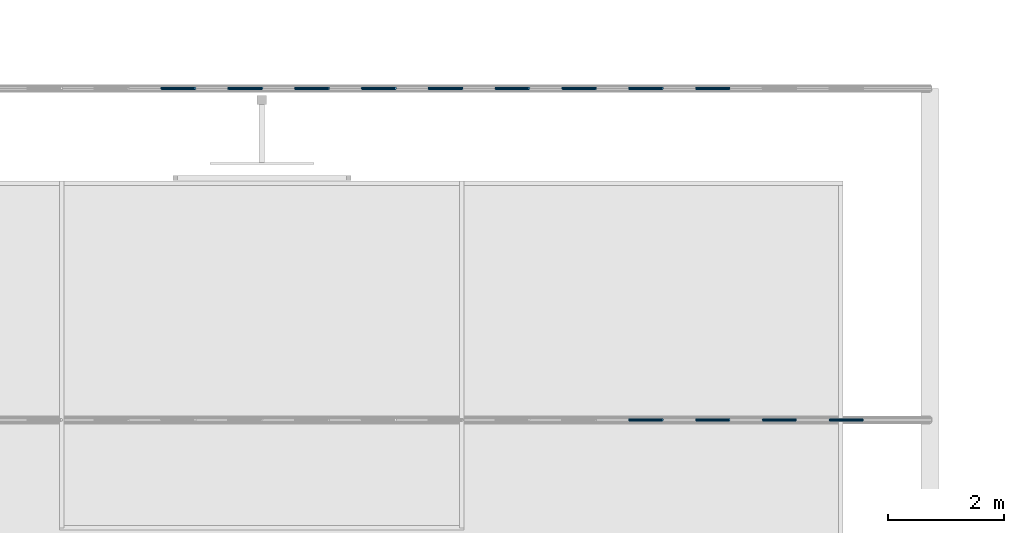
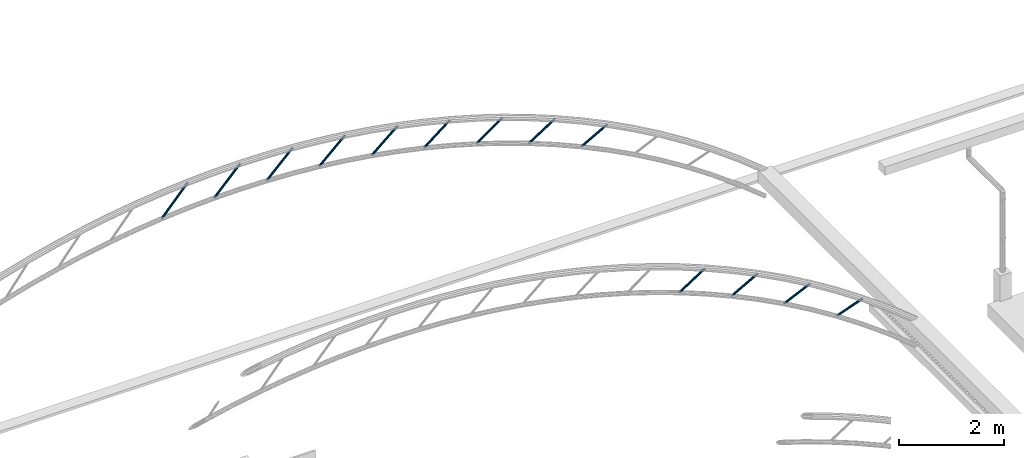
# One storey, part 23 of 90: 13 beams.
"""IFC2X3 building model written with IfcOpenShell, lengths in metres."""

from ifc_helpers import new_model, si_unit, origin, origin_with_axes, place, context, subcontext, project, spatial, faceted_brep, element, save


model = new_model("IFC2X3")

# Units and contexts
model_context = context("Model", 3, precision=1e-05, world=origin_with_axes())
body_context = subcontext(model_context, "Body", "Model", "MODEL_VIEW")
ifc_project = project(units=[si_unit("LENGTHUNIT", "METRE"), si_unit("AREAUNIT", "SQUARE_METRE"), si_unit("VOLUMEUNIT", "CUBIC_METRE"), si_unit("PLANEANGLEUNIT", "RADIAN")], contexts=[model_context])

# Site, building, storey
site_placement = place(None, origin_with_axes())
site = spatial("IfcSite", under=ifc_project, at=site_placement, Name="Predio Los Mangos - Morales, San Martín", CompositionType="ELEMENT")
building_placement = place(site_placement, origin())
building = spatial("IfcBuilding", under=site, at=building_placement, Name="Hogar de Refugio Temporal", CompositionType="ELEMENT")
storey_placement = place(building_placement, origin())
storey = spatial("IfcBuildingStorey", under=building, at=storey_placement, Name="NIVEL 1 (NPT +0.00)", CompositionType="ELEMENT", Elevation=0.0)

# Beams
beam_1_placement = place(storey_placement, origin())
element("IfcBeam", 1, at=beam_1_placement, inside=storey, Name="diag", ObjectType="Viga", context=body_context, shape_type="Brep", body=[
    faceted_brep([(21.3958, 121.2883, 8.401), (21.9733, 121.2883, 8.7715), (21.98, 121.2917, 8.7609), (21.4025, 121.2917, 8.3905), (21.3908, 121.2792, 8.4087), (21.9683, 121.2792, 8.7792), (21.389, 121.2667, 8.4115), (21.9665, 121.2667, 8.782), (21.3908, 121.2542, 8.4087), (21.9683, 121.2542, 8.7792), (21.3958, 121.245, 8.401), (21.9733, 121.245, 8.7715), (21.4025, 121.2417, 8.3905), (21.98, 121.2417, 8.7609), (21.4092, 121.245, 8.38), (21.9867, 121.245, 8.7504), (21.4142, 121.2542, 8.3723), (21.9917, 121.2542, 8.7427), (21.416, 121.2667, 8.3695), (21.9935, 121.2667, 8.7399), (21.4142, 121.2792, 8.3723), (21.9917, 121.2792, 8.7427), (21.4092, 121.2883, 8.38), (21.9867, 121.2883, 8.7504), (21.4013, 121.2704, 8.3923), (21.4025, 121.271, 8.3905), (21.98, 121.271, 8.7609), (21.9788, 121.2704, 8.7627), (21.4005, 121.2688, 8.3936), (21.978, 121.2688, 8.7641), (21.4002, 121.2667, 8.3941), (21.9777, 121.2667, 8.7645), (21.4005, 121.2645, 8.3936), (21.978, 121.2645, 8.7641), (21.4013, 121.2629, 8.3923), (21.9788, 121.2629, 8.7627), (21.4025, 121.2624, 8.3905), (21.98, 121.2624, 8.7609), (21.4037, 121.2629, 8.3887), (21.9812, 121.2629, 8.7591), (21.4045, 121.2645, 8.3874), (21.982, 121.2645, 8.7578), (21.4048, 121.2667, 8.3869), (21.9823, 121.2667, 8.7573), (21.4045, 121.2688, 8.3874), (21.982, 121.2688, 8.7578), (21.4037, 121.2704, 8.3887), (21.9812, 121.2704, 8.7591)], [[[0, 1, 2, 3]], [[4, 5, 1, 0]], [[6, 7, 5, 4]], [[8, 9, 7, 6]], [[10, 11, 9, 8]], [[12, 13, 11, 10]], [[14, 15, 13, 12]], [[16, 17, 15, 14]], [[18, 19, 17, 16]], [[20, 21, 19, 18]], [[22, 23, 21, 20]], [[3, 2, 23, 22]], [[24, 25, 26, 27]], [[28, 24, 27, 29]], [[30, 28, 29, 31]], [[32, 30, 31, 33]], [[34, 32, 33, 35]], [[36, 34, 35, 37]], [[38, 36, 37, 39]], [[40, 38, 39, 41]], [[42, 40, 41, 43]], [[44, 42, 43, 45]], [[46, 44, 45, 47]], [[25, 46, 47, 26]], [[6, 4, 28, 30]], [[16, 14, 38, 40]], [[0, 3, 25, 24]], [[9, 11, 35, 33]], [[19, 21, 45, 43]], [[12, 10, 34, 36]], [[22, 20, 44, 46]], [[5, 7, 31, 29]], [[15, 17, 41, 39]], [[2, 1, 27, 26]], [[8, 6, 30, 32]], [[18, 16, 40, 42]], [[11, 13, 37, 35]], [[21, 23, 47, 45]], [[4, 0, 24, 28]], [[14, 12, 36, 38]], [[3, 22, 46, 25]], [[7, 9, 33, 31]], [[17, 19, 43, 41]], [[23, 2, 26, 47]], [[10, 8, 32, 34]], [[20, 18, 42, 44]], [[1, 5, 29, 27]], [[13, 15, 39, 37]]]),
])
beam_2_placement = place(storey_placement, origin())
element("IfcBeam", 2, at=beam_2_placement, inside=storey, Name="diag", ObjectType="Viga", context=body_context, shape_type="Brep", body=[
    faceted_brep([(22.5514, 121.2883, 7.9187), (23.1289, 121.2883, 8.2407), (23.135, 121.2917, 8.2298), (22.5575, 121.2917, 7.9077), (22.547, 121.2792, 7.9267), (23.1245, 121.2792, 8.2487), (22.5453, 121.2667, 7.9296), (23.1228, 121.2667, 8.2517), (22.547, 121.2542, 7.9267), (23.1245, 121.2542, 8.2487), (22.5514, 121.245, 7.9187), (23.1289, 121.245, 8.2407), (22.5575, 121.2417, 7.9077), (23.135, 121.2417, 8.2298), (22.5636, 121.245, 7.8968), (23.1411, 121.245, 8.2189), (22.568, 121.2542, 7.8888), (23.1455, 121.2542, 8.2109), (22.5697, 121.2667, 7.8859), (23.1472, 121.2667, 8.208), (22.568, 121.2792, 7.8888), (23.1455, 121.2792, 8.2109), (22.5636, 121.2883, 7.8968), (23.1411, 121.2883, 8.2189), (22.5565, 121.2704, 7.9096), (22.5575, 121.271, 7.9077), (23.135, 121.271, 8.2298), (23.134, 121.2704, 8.2317), (22.5557, 121.2688, 7.911), (23.1332, 121.2688, 8.2331), (22.5554, 121.2667, 7.9115), (23.1329, 121.2667, 8.2336), (22.5557, 121.2645, 7.911), (23.1332, 121.2645, 8.2331), (22.5565, 121.2629, 7.9096), (23.134, 121.2629, 8.2317), (22.5575, 121.2624, 7.9077), (23.135, 121.2624, 8.2298), (22.5585, 121.2629, 7.9059), (23.136, 121.2629, 8.228), (22.5593, 121.2645, 7.9045), (23.1368, 121.2645, 8.2266), (22.5596, 121.2667, 7.904), (23.1371, 121.2667, 8.2261), (22.5593, 121.2688, 7.9045), (23.1368, 121.2688, 8.2266), (22.5585, 121.2704, 7.9059), (23.136, 121.2704, 8.228)], [[[0, 1, 2, 3]], [[4, 5, 1, 0]], [[6, 7, 5, 4]], [[8, 9, 7, 6]], [[10, 11, 9, 8]], [[12, 13, 11, 10]], [[14, 15, 13, 12]], [[16, 17, 15, 14]], [[18, 19, 17, 16]], [[20, 21, 19, 18]], [[22, 23, 21, 20]], [[3, 2, 23, 22]], [[24, 25, 26, 27]], [[28, 24, 27, 29]], [[30, 28, 29, 31]], [[32, 30, 31, 33]], [[34, 32, 33, 35]], [[36, 34, 35, 37]], [[38, 36, 37, 39]], [[40, 38, 39, 41]], [[42, 40, 41, 43]], [[44, 42, 43, 45]], [[46, 44, 45, 47]], [[25, 46, 47, 26]], [[6, 4, 28, 30]], [[16, 14, 38, 40]], [[0, 3, 25, 24]], [[9, 11, 35, 33]], [[19, 21, 45, 43]], [[12, 10, 34, 36]], [[22, 20, 44, 46]], [[5, 7, 31, 29]], [[15, 17, 41, 39]], [[2, 1, 27, 26]], [[8, 6, 30, 32]], [[18, 16, 40, 42]], [[11, 13, 37, 35]], [[21, 23, 47, 45]], [[4, 0, 24, 28]], [[14, 12, 36, 38]], [[3, 22, 46, 25]], [[7, 9, 33, 31]], [[17, 19, 43, 41]], [[23, 2, 26, 47]], [[10, 8, 32, 34]], [[20, 18, 42, 44]], [[1, 5, 29, 27]], [[13, 15, 39, 37]]]),
])
beam_3_placement = place(storey_placement, origin())
element("IfcBeam", 3, at=beam_3_placement, inside=storey, Name="diag", ObjectType="Viga", context=body_context, shape_type="Brep", body=[
    faceted_brep([(23.7072, 121.2883, 7.3372), (24.2847, 121.2883, 7.6056), (24.29, 121.2917, 7.5943), (23.7125, 121.2917, 7.3259), (23.7034, 121.2792, 7.3455), (24.2809, 121.2792, 7.6139), (23.702, 121.2667, 7.3485), (24.2795, 121.2667, 7.617), (23.7034, 121.2542, 7.3455), (24.2809, 121.2542, 7.6139), (23.7072, 121.245, 7.3372), (24.2847, 121.245, 7.6056), (23.7125, 121.2417, 7.3259), (24.29, 121.2417, 7.5943), (23.7178, 121.245, 7.3145), (24.2953, 121.245, 7.583), (23.7216, 121.2542, 7.3062), (24.2991, 121.2542, 7.5747), (23.723, 121.2667, 7.3032), (24.3005, 121.2667, 7.5716), (23.7216, 121.2792, 7.3062), (24.2991, 121.2792, 7.5747), (23.7178, 121.2883, 7.3145), (24.2953, 121.2883, 7.583), (23.7116, 121.2704, 7.3278), (23.7125, 121.271, 7.3259), (24.29, 121.271, 7.5943), (24.2891, 121.2704, 7.5963), (23.7109, 121.2688, 7.3292), (24.2884, 121.2688, 7.5977), (23.7107, 121.2667, 7.3298), (24.2882, 121.2667, 7.5982), (23.7109, 121.2645, 7.3292), (24.2884, 121.2645, 7.5977), (23.7116, 121.2629, 7.3278), (24.2891, 121.2629, 7.5963), (23.7125, 121.2624, 7.3259), (24.29, 121.2624, 7.5943), (23.7134, 121.2629, 7.3239), (24.2909, 121.2629, 7.5924), (23.7141, 121.2645, 7.3225), (24.2916, 121.2645, 7.5909), (23.7143, 121.2667, 7.322), (24.2918, 121.2667, 7.5904), (23.7141, 121.2688, 7.3225), (24.2916, 121.2688, 7.5909), (23.7134, 121.2704, 7.3239), (24.2909, 121.2704, 7.5924)], [[[0, 1, 2, 3]], [[4, 5, 1, 0]], [[6, 7, 5, 4]], [[8, 9, 7, 6]], [[10, 11, 9, 8]], [[12, 13, 11, 10]], [[14, 15, 13, 12]], [[16, 17, 15, 14]], [[18, 19, 17, 16]], [[20, 21, 19, 18]], [[22, 23, 21, 20]], [[3, 2, 23, 22]], [[24, 25, 26, 27]], [[28, 24, 27, 29]], [[30, 28, 29, 31]], [[32, 30, 31, 33]], [[34, 32, 33, 35]], [[36, 34, 35, 37]], [[38, 36, 37, 39]], [[40, 38, 39, 41]], [[42, 40, 41, 43]], [[44, 42, 43, 45]], [[46, 44, 45, 47]], [[25, 46, 47, 26]], [[6, 4, 28, 30]], [[16, 14, 38, 40]], [[0, 3, 25, 24]], [[9, 11, 35, 33]], [[19, 21, 45, 43]], [[12, 10, 34, 36]], [[22, 20, 44, 46]], [[5, 7, 31, 29]], [[15, 17, 41, 39]], [[2, 1, 27, 26]], [[8, 6, 30, 32]], [[18, 16, 40, 42]], [[11, 13, 37, 35]], [[21, 23, 47, 45]], [[4, 0, 24, 28]], [[14, 12, 36, 38]], [[3, 22, 46, 25]], [[7, 9, 33, 31]], [[17, 19, 43, 41]], [[23, 2, 26, 47]], [[10, 8, 32, 34]], [[20, 18, 42, 44]], [[1, 5, 29, 27]], [[13, 15, 39, 37]]]),
])
beam_4_placement = place(storey_placement, origin())
element("IfcBeam", 4, at=beam_4_placement, inside=storey, Name="diag", ObjectType="Viga", context=body_context, shape_type="Brep", body=[
    faceted_brep([(24.8633, 121.2883, 6.6451), (25.4408, 121.2883, 6.8526), (25.445, 121.2917, 6.8408), (24.8675, 121.2917, 6.6333), (24.8602, 121.2792, 6.6537), (25.4377, 121.2792, 6.8612), (24.859, 121.2667, 6.6569), (25.4365, 121.2667, 6.8643), (24.8602, 121.2542, 6.6537), (25.4377, 121.2542, 6.8612), (24.8633, 121.245, 6.6451), (25.4408, 121.245, 6.8526), (24.8675, 121.2417, 6.6333), (25.445, 121.2417, 6.8408), (24.8717, 121.245, 6.6216), (25.4492, 121.245, 6.829), (24.8748, 121.2542, 6.613), (25.4523, 121.2542, 6.8204), (24.876, 121.2667, 6.6098), (25.4535, 121.2667, 6.8173), (24.8748, 121.2792, 6.613), (25.4523, 121.2792, 6.8204), (24.8717, 121.2883, 6.6216), (25.4492, 121.2883, 6.829), (24.8668, 121.2704, 6.6354), (24.8675, 121.271, 6.6333), (25.445, 121.271, 6.8408), (25.4443, 121.2704, 6.8428), (24.8662, 121.2688, 6.6368), (25.4437, 121.2688, 6.8443), (24.866, 121.2667, 6.6374), (25.4435, 121.2667, 6.8449), (24.8662, 121.2645, 6.6368), (25.4437, 121.2645, 6.8443), (24.8668, 121.2629, 6.6354), (25.4443, 121.2629, 6.8428), (24.8675, 121.2624, 6.6333), (25.445, 121.2624, 6.8408), (24.8682, 121.2629, 6.6313), (25.4457, 121.2629, 6.8388), (24.8688, 121.2645, 6.6298), (25.4463, 121.2645, 6.8373), (24.869, 121.2667, 6.6293), (25.4465, 121.2667, 6.8368), (24.8688, 121.2688, 6.6298), (25.4463, 121.2688, 6.8373), (24.8682, 121.2704, 6.6313), (25.4457, 121.2704, 6.8388)], [[[0, 1, 2, 3]], [[4, 5, 1, 0]], [[6, 7, 5, 4]], [[8, 9, 7, 6]], [[10, 11, 9, 8]], [[12, 13, 11, 10]], [[14, 15, 13, 12]], [[16, 17, 15, 14]], [[18, 19, 17, 16]], [[20, 21, 19, 18]], [[22, 23, 21, 20]], [[3, 2, 23, 22]], [[24, 25, 26, 27]], [[28, 24, 27, 29]], [[30, 28, 29, 31]], [[32, 30, 31, 33]], [[34, 32, 33, 35]], [[36, 34, 35, 37]], [[38, 36, 37, 39]], [[40, 38, 39, 41]], [[42, 40, 41, 43]], [[44, 42, 43, 45]], [[46, 44, 45, 47]], [[25, 46, 47, 26]], [[6, 4, 28, 30]], [[16, 14, 38, 40]], [[0, 3, 25, 24]], [[9, 11, 35, 33]], [[19, 21, 45, 43]], [[12, 10, 34, 36]], [[22, 20, 44, 46]], [[5, 7, 31, 29]], [[15, 17, 41, 39]], [[2, 1, 27, 26]], [[8, 6, 30, 32]], [[18, 16, 40, 42]], [[11, 13, 37, 35]], [[21, 23, 47, 45]], [[4, 0, 24, 28]], [[14, 12, 36, 38]], [[3, 22, 46, 25]], [[7, 9, 33, 31]], [[17, 19, 43, 41]], [[23, 2, 26, 47]], [[10, 8, 32, 34]], [[20, 18, 42, 44]], [[1, 5, 29, 27]], [[13, 15, 39, 37]]]),
])
beam_5_placement = place(storey_placement, origin())
element("IfcBeam", 5, at=beam_5_placement, inside=storey, Name="diag", ObjectType="Viga", context=body_context, shape_type="Brep", body=[
    faceted_brep([(13.3082, 127.0217, 9.4747), (13.8857, 127.0217, 10.1212), (13.895, 127.025, 10.1129), (13.3175, 127.025, 9.4663), (13.3014, 127.0125, 9.4808), (13.8789, 127.0125, 10.1273), (13.2989, 127.0, 9.483), (13.8764, 127.0, 10.1295), (13.3014, 126.9875, 9.4808), (13.8789, 126.9875, 10.1273), (13.3082, 126.9783, 9.4747), (13.8857, 126.9783, 10.1212), (13.3175, 126.975, 9.4663), (13.895, 126.975, 10.1129), (13.3268, 126.9783, 9.458), (13.9043, 126.9783, 10.1045), (13.3336, 126.9875, 9.4519), (13.9111, 126.9875, 10.0984), (13.3361, 127.0, 9.4497), (13.9136, 127.0, 10.0962), (13.3336, 127.0125, 9.4519), (13.9111, 127.0125, 10.0984), (13.3268, 127.0217, 9.458), (13.9043, 127.0217, 10.1045), (13.3159, 127.0037, 9.4678), (13.3175, 127.0043, 9.4663), (13.895, 127.0043, 10.1129), (13.8934, 127.0037, 10.1143), (13.3147, 127.0021, 9.4688), (13.8922, 127.0021, 10.1153), (13.3143, 127.0, 9.4692), (13.8918, 127.0, 10.1157), (13.3147, 126.9979, 9.4688), (13.8922, 126.9979, 10.1153), (13.3159, 126.9963, 9.4678), (13.8934, 126.9963, 10.1143), (13.3175, 126.9957, 9.4663), (13.895, 126.9957, 10.1129), (13.3191, 126.9963, 9.4649), (13.8966, 126.9963, 10.1114), (13.3203, 126.9979, 9.4639), (13.8978, 126.9979, 10.1104), (13.3207, 127.0, 9.4635), (13.8982, 127.0, 10.11), (13.3203, 127.0021, 9.4639), (13.8978, 127.0021, 10.1104), (13.3191, 127.0037, 9.4649), (13.8966, 127.0037, 10.1114)], [[[0, 1, 2, 3]], [[4, 5, 1, 0]], [[6, 7, 5, 4]], [[8, 9, 7, 6]], [[10, 11, 9, 8]], [[12, 13, 11, 10]], [[14, 15, 13, 12]], [[16, 17, 15, 14]], [[18, 19, 17, 16]], [[20, 21, 19, 18]], [[22, 23, 21, 20]], [[3, 2, 23, 22]], [[24, 25, 26, 27]], [[28, 24, 27, 29]], [[30, 28, 29, 31]], [[32, 30, 31, 33]], [[34, 32, 33, 35]], [[36, 34, 35, 37]], [[38, 36, 37, 39]], [[40, 38, 39, 41]], [[42, 40, 41, 43]], [[44, 42, 43, 45]], [[46, 44, 45, 47]], [[25, 46, 47, 26]], [[8, 6, 30, 32]], [[18, 16, 40, 42]], [[11, 13, 37, 35]], [[21, 23, 47, 45]], [[4, 0, 24, 28]], [[14, 12, 36, 38]], [[3, 22, 46, 25]], [[7, 9, 33, 31]], [[17, 19, 43, 41]], [[23, 2, 26, 47]], [[10, 8, 32, 34]], [[20, 18, 42, 44]], [[1, 5, 29, 27]], [[13, 15, 39, 37]], [[6, 4, 28, 30]], [[16, 14, 38, 40]], [[0, 3, 25, 24]], [[9, 11, 35, 33]], [[19, 21, 45, 43]], [[12, 10, 34, 36]], [[22, 20, 44, 46]], [[5, 7, 31, 29]], [[15, 17, 41, 39]], [[2, 1, 27, 26]]]),
])
beam_6_placement = place(storey_placement, origin())
element("IfcBeam", 6, at=beam_6_placement, inside=storey, Name="diag", ObjectType="Viga", context=body_context, shape_type="Brep", body=[
    faceted_brep([(14.4634, 127.0217, 9.5493), (15.0409, 127.0217, 10.1586), (15.05, 127.025, 10.15), (14.4725, 127.025, 9.5407), (14.4568, 127.0125, 9.5556), (15.0343, 127.0125, 10.1649), (14.4544, 127.0, 9.5579), (15.0319, 127.0, 10.1672), (14.4568, 126.9875, 9.5556), (15.0343, 126.9875, 10.1649), (14.4634, 126.9783, 9.5493), (15.0409, 126.9783, 10.1586), (14.4725, 126.975, 9.5407), (15.05, 126.975, 10.15), (14.4816, 126.9783, 9.5321), (15.0591, 126.9783, 10.1414), (14.4882, 126.9875, 9.5258), (15.0657, 126.9875, 10.1351), (14.4906, 127.0, 9.5235), (15.0681, 127.0, 10.1328), (14.4882, 127.0125, 9.5258), (15.0657, 127.0125, 10.1351), (14.4816, 127.0217, 9.5321), (15.0591, 127.0217, 10.1414), (14.4709, 127.0037, 9.5422), (14.4725, 127.0043, 9.5407), (15.05, 127.0043, 10.15), (15.0484, 127.0037, 10.1515), (14.4698, 127.0021, 9.5433), (15.0473, 127.0021, 10.1526), (14.4694, 127.0, 9.5437), (15.0469, 127.0, 10.153), (14.4698, 126.9979, 9.5433), (15.0473, 126.9979, 10.1526), (14.4709, 126.9963, 9.5422), (15.0484, 126.9963, 10.1515), (14.4725, 126.9957, 9.5407), (15.05, 126.9957, 10.15), (14.4741, 126.9963, 9.5392), (15.0516, 126.9963, 10.1485), (14.4752, 126.9979, 9.5382), (15.0527, 126.9979, 10.1474), (14.4756, 127.0, 9.5378), (15.0531, 127.0, 10.147), (14.4752, 127.0021, 9.5382), (15.0527, 127.0021, 10.1474), (14.4741, 127.0037, 9.5392), (15.0516, 127.0037, 10.1485)], [[[0, 1, 2, 3]], [[4, 5, 1, 0]], [[6, 7, 5, 4]], [[8, 9, 7, 6]], [[10, 11, 9, 8]], [[12, 13, 11, 10]], [[14, 15, 13, 12]], [[16, 17, 15, 14]], [[18, 19, 17, 16]], [[20, 21, 19, 18]], [[22, 23, 21, 20]], [[3, 2, 23, 22]], [[24, 25, 26, 27]], [[28, 24, 27, 29]], [[30, 28, 29, 31]], [[32, 30, 31, 33]], [[34, 32, 33, 35]], [[36, 34, 35, 37]], [[38, 36, 37, 39]], [[40, 38, 39, 41]], [[42, 40, 41, 43]], [[44, 42, 43, 45]], [[46, 44, 45, 47]], [[25, 46, 47, 26]], [[9, 11, 35, 33]], [[19, 21, 45, 43]], [[12, 10, 34, 36]], [[22, 20, 44, 46]], [[5, 7, 31, 29]], [[15, 17, 41, 39]], [[2, 1, 27, 26]], [[8, 6, 30, 32]], [[18, 16, 40, 42]], [[11, 13, 37, 35]], [[21, 23, 47, 45]], [[4, 0, 24, 28]], [[14, 12, 36, 38]], [[3, 22, 46, 25]], [[7, 9, 33, 31]], [[17, 19, 43, 41]], [[23, 2, 26, 47]], [[10, 8, 32, 34]], [[20, 18, 42, 44]], [[1, 5, 29, 27]], [[13, 15, 39, 37]], [[6, 4, 28, 30]], [[16, 14, 38, 40]], [[0, 3, 25, 24]]]),
])
beam_7_placement = place(storey_placement, origin())
element("IfcBeam", 7, at=beam_7_placement, inside=storey, Name="diag", ObjectType="Viga", context=body_context, shape_type="Brep", body=[
    faceted_brep([(15.6187, 127.0217, 9.5496), (16.1962, 127.0217, 10.1217), (16.205, 127.025, 10.1129), (15.6275, 127.025, 9.5407), (15.6123, 127.0125, 9.5561), (16.1898, 127.0125, 10.1282), (15.6099, 127.0, 9.5585), (16.1874, 127.0, 10.1306), (15.6123, 126.9875, 9.5561), (16.1898, 126.9875, 10.1282), (15.6187, 126.9783, 9.5496), (16.1962, 126.9783, 10.1217), (15.6275, 126.975, 9.5407), (16.205, 126.975, 10.1129), (15.6363, 126.9783, 9.5318), (16.2138, 126.9783, 10.104), (15.6427, 126.9875, 9.5253), (16.2202, 126.9875, 10.0975), (15.6451, 127.0, 9.523), (16.2226, 127.0, 10.0951), (15.6427, 127.0125, 9.5253), (16.2202, 127.0125, 10.0975), (15.6363, 127.0217, 9.5318), (16.2138, 127.0217, 10.104), (15.626, 127.0037, 9.5422), (15.6275, 127.0043, 9.5407), (16.205, 127.0043, 10.1129), (16.2035, 127.0037, 10.1144), (15.6249, 127.0021, 9.5434), (16.2024, 127.0021, 10.1155), (15.6245, 127.0, 9.5438), (16.202, 127.0, 10.1159), (15.6249, 126.9979, 9.5434), (16.2024, 126.9979, 10.1155), (15.626, 126.9963, 9.5422), (16.2035, 126.9963, 10.1144), (15.6275, 126.9957, 9.5407), (16.205, 126.9957, 10.1129), (15.629, 126.9963, 9.5392), (16.2065, 126.9963, 10.1113), (15.6301, 126.9979, 9.5381), (16.2076, 126.9979, 10.1102), (15.6305, 127.0, 9.5377), (16.208, 127.0, 10.1098), (15.6301, 127.0021, 9.5381), (16.2076, 127.0021, 10.1102), (15.629, 127.0037, 9.5392), (16.2065, 127.0037, 10.1113)], [[[0, 1, 2, 3]], [[4, 5, 1, 0]], [[6, 7, 5, 4]], [[8, 9, 7, 6]], [[10, 11, 9, 8]], [[12, 13, 11, 10]], [[14, 15, 13, 12]], [[16, 17, 15, 14]], [[18, 19, 17, 16]], [[20, 21, 19, 18]], [[22, 23, 21, 20]], [[3, 2, 23, 22]], [[24, 25, 26, 27]], [[28, 24, 27, 29]], [[30, 28, 29, 31]], [[32, 30, 31, 33]], [[34, 32, 33, 35]], [[36, 34, 35, 37]], [[38, 36, 37, 39]], [[40, 38, 39, 41]], [[42, 40, 41, 43]], [[44, 42, 43, 45]], [[46, 44, 45, 47]], [[25, 46, 47, 26]], [[3, 22, 46, 25]], [[7, 9, 33, 31]], [[17, 19, 43, 41]], [[23, 2, 26, 47]], [[10, 8, 32, 34]], [[20, 18, 42, 44]], [[1, 5, 29, 27]], [[13, 15, 39, 37]], [[6, 4, 28, 30]], [[16, 14, 38, 40]], [[0, 3, 25, 24]], [[9, 11, 35, 33]], [[19, 21, 45, 43]], [[12, 10, 34, 36]], [[22, 20, 44, 46]], [[5, 7, 31, 29]], [[15, 17, 41, 39]], [[2, 1, 27, 26]], [[8, 6, 30, 32]], [[18, 16, 40, 42]], [[11, 13, 37, 35]], [[21, 23, 47, 45]], [[4, 0, 24, 28]], [[14, 12, 36, 38]]]),
])
beam_8_placement = place(storey_placement, origin())
element("IfcBeam", 8, at=beam_8_placement, inside=storey, Name="diag", ObjectType="Viga", context=body_context, shape_type="Brep", body=[
    faceted_brep([(16.774, 127.0217, 9.4755), (17.3515, 127.0217, 10.0102), (17.36, 127.025, 10.001), (16.7825, 127.025, 9.4663), (16.7678, 127.0125, 9.4822), (17.3453, 127.0125, 10.0169), (16.7655, 127.0, 9.4847), (17.343, 127.0, 10.0193), (16.7678, 126.9875, 9.4822), (17.3453, 126.9875, 10.0169), (16.774, 126.9783, 9.4755), (17.3515, 126.9783, 10.0102), (16.7825, 126.975, 9.4663), (17.36, 126.975, 10.001), (16.791, 126.9783, 9.4572), (17.3685, 126.9783, 9.9918), (16.7972, 126.9875, 9.4505), (17.3747, 126.9875, 9.9851), (16.7995, 127.0, 9.448), (17.377, 127.0, 9.9827), (16.7972, 127.0125, 9.4505), (17.3747, 127.0125, 9.9851), (16.791, 127.0217, 9.4572), (17.3685, 127.0217, 9.9918), (16.781, 127.0037, 9.4679), (16.7825, 127.0043, 9.4663), (17.36, 127.0043, 10.001), (17.3585, 127.0037, 10.0026), (16.78, 127.0021, 9.4691), (17.3575, 127.0021, 10.0037), (16.7796, 127.0, 9.4695), (17.3571, 127.0, 10.0042), (16.78, 126.9979, 9.4691), (17.3575, 126.9979, 10.0037), (16.781, 126.9963, 9.4679), (17.3585, 126.9963, 10.0026), (16.7825, 126.9957, 9.4663), (17.36, 126.9957, 10.001), (16.784, 126.9963, 9.4648), (17.3615, 126.9963, 9.9994), (16.785, 126.9979, 9.4636), (17.3625, 126.9979, 9.9983), (16.7854, 127.0, 9.4632), (17.3629, 127.0, 9.9979), (16.785, 127.0021, 9.4636), (17.3625, 127.0021, 9.9983), (16.784, 127.0037, 9.4648), (17.3615, 127.0037, 9.9994)], [[[0, 1, 2, 3]], [[4, 5, 1, 0]], [[6, 7, 5, 4]], [[8, 9, 7, 6]], [[10, 11, 9, 8]], [[12, 13, 11, 10]], [[14, 15, 13, 12]], [[16, 17, 15, 14]], [[18, 19, 17, 16]], [[20, 21, 19, 18]], [[22, 23, 21, 20]], [[3, 2, 23, 22]], [[24, 25, 26, 27]], [[28, 24, 27, 29]], [[30, 28, 29, 31]], [[32, 30, 31, 33]], [[34, 32, 33, 35]], [[36, 34, 35, 37]], [[38, 36, 37, 39]], [[40, 38, 39, 41]], [[42, 40, 41, 43]], [[44, 42, 43, 45]], [[46, 44, 45, 47]], [[25, 46, 47, 26]], [[10, 8, 32, 34]], [[20, 18, 42, 44]], [[1, 5, 29, 27]], [[13, 15, 39, 37]], [[6, 4, 28, 30]], [[16, 14, 38, 40]], [[0, 3, 25, 24]], [[9, 11, 35, 33]], [[19, 21, 45, 43]], [[12, 10, 34, 36]], [[22, 20, 44, 46]], [[5, 7, 31, 29]], [[15, 17, 41, 39]], [[2, 1, 27, 26]], [[8, 6, 30, 32]], [[18, 16, 40, 42]], [[11, 13, 37, 35]], [[21, 23, 47, 45]], [[4, 0, 24, 28]], [[14, 12, 36, 38]], [[3, 22, 46, 25]], [[7, 9, 33, 31]], [[17, 19, 43, 41]], [[23, 2, 26, 47]]]),
])
beam_9_placement = place(storey_placement, origin())
element("IfcBeam", 9, at=beam_9_placement, inside=storey, Name="diag", ObjectType="Viga", context=body_context, shape_type="Brep", body=[
    faceted_brep([(17.9294, 127.0217, 9.3261), (18.5069, 127.0217, 9.8225), (18.515, 127.025, 9.813), (17.9375, 127.025, 9.3166), (17.9234, 127.0125, 9.3331), (18.5009, 127.0125, 9.8294), (17.9212, 127.0, 9.3356), (18.4987, 127.0, 9.8319), (17.9234, 126.9875, 9.3331), (18.5009, 126.9875, 9.8294), (17.9294, 126.9783, 9.3261), (18.5069, 126.9783, 9.8225), (17.9375, 126.975, 9.3166), (18.515, 126.975, 9.813), (17.9456, 126.9783, 9.3072), (18.5231, 126.9783, 9.8035), (17.9516, 126.9875, 9.3002), (18.5291, 126.9875, 9.7966), (17.9538, 127.0, 9.2977), (18.5313, 127.0, 9.794), (17.9516, 127.0125, 9.3002), (18.5291, 127.0125, 9.7966), (17.9456, 127.0217, 9.3072), (18.5231, 127.0217, 9.8035), (17.9361, 127.0037, 9.3183), (17.9375, 127.0043, 9.3166), (18.515, 127.0043, 9.813), (18.5136, 127.0037, 9.8146), (17.9351, 127.0021, 9.3195), (18.5126, 127.0021, 9.8158), (17.9347, 127.0, 9.3199), (18.5122, 127.0, 9.8162), (17.9351, 126.9979, 9.3195), (18.5126, 126.9979, 9.8158), (17.9361, 126.9963, 9.3183), (18.5136, 126.9963, 9.8146), (17.9375, 126.9957, 9.3166), (18.515, 126.9957, 9.813), (17.9389, 126.9963, 9.315), (18.5164, 126.9963, 9.8114), (17.9399, 126.9979, 9.3138), (18.5174, 126.9979, 9.8102), (17.9403, 127.0, 9.3134), (18.5178, 127.0, 9.8097), (17.9399, 127.0021, 9.3138), (18.5174, 127.0021, 9.8102), (17.9389, 127.0037, 9.315), (18.5164, 127.0037, 9.8114)], [[[0, 1, 2, 3]], [[4, 5, 1, 0]], [[6, 7, 5, 4]], [[8, 9, 7, 6]], [[10, 11, 9, 8]], [[12, 13, 11, 10]], [[14, 15, 13, 12]], [[16, 17, 15, 14]], [[18, 19, 17, 16]], [[20, 21, 19, 18]], [[22, 23, 21, 20]], [[3, 2, 23, 22]], [[24, 25, 26, 27]], [[28, 24, 27, 29]], [[30, 28, 29, 31]], [[32, 30, 31, 33]], [[34, 32, 33, 35]], [[36, 34, 35, 37]], [[38, 36, 37, 39]], [[40, 38, 39, 41]], [[42, 40, 41, 43]], [[44, 42, 43, 45]], [[46, 44, 45, 47]], [[25, 46, 47, 26]], [[19, 21, 45, 43]], [[12, 10, 34, 36]], [[22, 20, 44, 46]], [[5, 7, 31, 29]], [[15, 17, 41, 39]], [[2, 1, 27, 26]], [[8, 6, 30, 32]], [[18, 16, 40, 42]], [[11, 13, 37, 35]], [[21, 23, 47, 45]], [[4, 0, 24, 28]], [[14, 12, 36, 38]], [[3, 22, 46, 25]], [[7, 9, 33, 31]], [[17, 19, 43, 41]], [[23, 2, 26, 47]], [[10, 8, 32, 34]], [[20, 18, 42, 44]], [[1, 5, 29, 27]], [[13, 15, 39, 37]], [[6, 4, 28, 30]], [[16, 14, 38, 40]], [[0, 3, 25, 24]], [[9, 11, 35, 33]]]),
])
beam_10_placement = place(storey_placement, origin())
element("IfcBeam", 10, at=beam_10_placement, inside=storey, Name="diag", ObjectType="Viga", context=body_context, shape_type="Brep", body=[
    faceted_brep([(19.0847, 127.0217, 9.0995), (19.6622, 127.0217, 9.5562), (19.67, 127.025, 9.5463), (19.0925, 127.025, 9.0897), (19.0791, 127.0125, 9.1067), (19.6566, 127.0125, 9.5633), (19.077, 127.0, 9.1093), (19.6545, 127.0, 9.566), (19.0791, 126.9875, 9.1067), (19.6566, 126.9875, 9.5633), (19.0847, 126.9783, 9.0995), (19.6622, 126.9783, 9.5562), (19.0925, 126.975, 9.0897), (19.67, 126.975, 9.5463), (19.1003, 126.9783, 9.0799), (19.6778, 126.9783, 9.5365), (19.1059, 126.9875, 9.0727), (19.6834, 126.9875, 9.5294), (19.108, 127.0, 9.0701), (19.6855, 127.0, 9.5267), (19.1059, 127.0125, 9.0727), (19.6834, 127.0125, 9.5294), (19.1003, 127.0217, 9.0799), (19.6778, 127.0217, 9.5365), (19.0912, 127.0037, 9.0914), (19.0925, 127.0043, 9.0897), (19.67, 127.0043, 9.5463), (19.6687, 127.0037, 9.548), (19.0902, 127.0021, 9.0926), (19.6677, 127.0021, 9.5493), (19.0898, 127.0, 9.0931), (19.6673, 127.0, 9.5497), (19.0902, 126.9979, 9.0926), (19.6677, 126.9979, 9.5493), (19.0912, 126.9963, 9.0914), (19.6687, 126.9963, 9.548), (19.0925, 126.9957, 9.0897), (19.67, 126.9957, 9.5463), (19.0938, 126.9963, 9.088), (19.6713, 126.9963, 9.5447), (19.0948, 126.9979, 9.0868), (19.6723, 126.9979, 9.5434), (19.0952, 127.0, 9.0863), (19.6727, 127.0, 9.543), (19.0948, 127.0021, 9.0868), (19.6723, 127.0021, 9.5434), (19.0938, 127.0037, 9.088), (19.6713, 127.0037, 9.5447)], [[[0, 1, 2, 3]], [[4, 5, 1, 0]], [[6, 7, 5, 4]], [[8, 9, 7, 6]], [[10, 11, 9, 8]], [[12, 13, 11, 10]], [[14, 15, 13, 12]], [[16, 17, 15, 14]], [[18, 19, 17, 16]], [[20, 21, 19, 18]], [[22, 23, 21, 20]], [[3, 2, 23, 22]], [[24, 25, 26, 27]], [[28, 24, 27, 29]], [[30, 28, 29, 31]], [[32, 30, 31, 33]], [[34, 32, 33, 35]], [[36, 34, 35, 37]], [[38, 36, 37, 39]], [[40, 38, 39, 41]], [[42, 40, 41, 43]], [[44, 42, 43, 45]], [[46, 44, 45, 47]], [[25, 46, 47, 26]], [[10, 8, 32, 34]], [[20, 18, 42, 44]], [[1, 5, 29, 27]], [[13, 15, 39, 37]], [[6, 4, 28, 30]], [[16, 14, 38, 40]], [[0, 3, 25, 24]], [[9, 11, 35, 33]], [[19, 21, 45, 43]], [[12, 10, 34, 36]], [[22, 20, 44, 46]], [[5, 7, 31, 29]], [[15, 17, 41, 39]], [[2, 1, 27, 26]], [[8, 6, 30, 32]], [[18, 16, 40, 42]], [[11, 13, 37, 35]], [[21, 23, 47, 45]], [[4, 0, 24, 28]], [[14, 12, 36, 38]], [[3, 22, 46, 25]], [[7, 9, 33, 31]], [[17, 19, 43, 41]], [[23, 2, 26, 47]]]),
])
beam_11_placement = place(storey_placement, origin())
element("IfcBeam", 11, at=beam_11_placement, inside=storey, Name="diag", ObjectType="Viga", context=body_context, shape_type="Brep", body=[
    faceted_brep([(20.2402, 127.0217, 8.7926), (20.8177, 127.0217, 9.2075), (20.825, 127.025, 9.1974), (20.2475, 127.025, 8.7824), (20.2349, 127.0125, 8.8), (20.8124, 127.0125, 9.215), (20.2329, 127.0, 8.8027), (20.8104, 127.0, 9.2177), (20.2349, 126.9875, 8.8), (20.8124, 126.9875, 9.215), (20.2402, 126.9783, 8.7926), (20.8177, 126.9783, 9.2075), (20.2475, 126.975, 8.7824), (20.825, 126.975, 9.1974), (20.2548, 126.9783, 8.7723), (20.8323, 126.9783, 9.1872), (20.2601, 126.9875, 8.7649), (20.8376, 126.9875, 9.1798), (20.2621, 127.0, 8.7621), (20.8396, 127.0, 9.1771), (20.2601, 127.0125, 8.7649), (20.8376, 127.0125, 9.1798), (20.2548, 127.0217, 8.7723), (20.8323, 127.0217, 9.1872), (20.2462, 127.0037, 8.7842), (20.2475, 127.0043, 8.7824), (20.825, 127.0043, 9.1974), (20.8237, 127.0037, 9.1991), (20.2453, 127.0021, 8.7855), (20.8228, 127.0021, 9.2004), (20.245, 127.0, 8.7859), (20.8225, 127.0, 9.2009), (20.2453, 126.9979, 8.7855), (20.8228, 126.9979, 9.2004), (20.2462, 126.9963, 8.7842), (20.8237, 126.9963, 9.1991), (20.2475, 126.9957, 8.7824), (20.825, 126.9957, 9.1974), (20.2488, 126.9963, 8.7807), (20.8263, 126.9963, 9.1957), (20.2497, 126.9979, 8.7794), (20.8272, 126.9979, 9.1944), (20.25, 127.0, 8.779), (20.8275, 127.0, 9.1939), (20.2497, 127.0021, 8.7794), (20.8272, 127.0021, 9.1944), (20.2488, 127.0037, 8.7807), (20.8263, 127.0037, 9.1957)], [[[0, 1, 2, 3]], [[4, 5, 1, 0]], [[6, 7, 5, 4]], [[8, 9, 7, 6]], [[10, 11, 9, 8]], [[12, 13, 11, 10]], [[14, 15, 13, 12]], [[16, 17, 15, 14]], [[18, 19, 17, 16]], [[20, 21, 19, 18]], [[22, 23, 21, 20]], [[3, 2, 23, 22]], [[24, 25, 26, 27]], [[28, 24, 27, 29]], [[30, 28, 29, 31]], [[32, 30, 31, 33]], [[34, 32, 33, 35]], [[36, 34, 35, 37]], [[38, 36, 37, 39]], [[40, 38, 39, 41]], [[42, 40, 41, 43]], [[44, 42, 43, 45]], [[46, 44, 45, 47]], [[25, 46, 47, 26]], [[12, 10, 34, 36]], [[22, 20, 44, 46]], [[5, 7, 31, 29]], [[15, 17, 41, 39]], [[2, 1, 27, 26]], [[8, 6, 30, 32]], [[18, 16, 40, 42]], [[11, 13, 37, 35]], [[21, 23, 47, 45]], [[4, 0, 24, 28]], [[14, 12, 36, 38]], [[3, 22, 46, 25]], [[7, 9, 33, 31]], [[17, 19, 43, 41]], [[23, 2, 26, 47]], [[10, 8, 32, 34]], [[20, 18, 42, 44]], [[1, 5, 29, 27]], [[13, 15, 39, 37]], [[6, 4, 28, 30]], [[16, 14, 38, 40]], [[0, 3, 25, 24]], [[9, 11, 35, 33]], [[19, 21, 45, 43]]]),
])
beam_12_placement = place(storey_placement, origin())
element("IfcBeam", 12, at=beam_12_placement, inside=storey, Name="diag", ObjectType="Viga", context=body_context, shape_type="Brep", body=[
    faceted_brep([(21.3958, 127.0217, 8.401), (21.9733, 127.0217, 8.7715), (21.98, 127.025, 8.7609), (21.4025, 127.025, 8.3905), (21.3908, 127.0125, 8.4087), (21.9683, 127.0125, 8.7792), (21.389, 127.0, 8.4115), (21.9665, 127.0, 8.782), (21.3908, 126.9875, 8.4087), (21.9683, 126.9875, 8.7792), (21.3958, 126.9783, 8.401), (21.9733, 126.9783, 8.7715), (21.4025, 126.975, 8.3905), (21.98, 126.975, 8.7609), (21.4092, 126.9783, 8.38), (21.9867, 126.9783, 8.7504), (21.4142, 126.9875, 8.3723), (21.9917, 126.9875, 8.7427), (21.416, 127.0, 8.3695), (21.9935, 127.0, 8.7399), (21.4142, 127.0125, 8.3723), (21.9917, 127.0125, 8.7427), (21.4092, 127.0217, 8.38), (21.9867, 127.0217, 8.7504), (21.4013, 127.0037, 8.3923), (21.4025, 127.0043, 8.3905), (21.98, 127.0043, 8.7609), (21.9788, 127.0037, 8.7627), (21.4005, 127.0021, 8.3936), (21.978, 127.0021, 8.7641), (21.4002, 127.0, 8.3941), (21.9777, 127.0, 8.7645), (21.4005, 126.9979, 8.3936), (21.978, 126.9979, 8.7641), (21.4013, 126.9963, 8.3923), (21.9788, 126.9963, 8.7627), (21.4025, 126.9957, 8.3905), (21.98, 126.9957, 8.7609), (21.4037, 126.9963, 8.3887), (21.9812, 126.9963, 8.7591), (21.4045, 126.9979, 8.3874), (21.982, 126.9979, 8.7578), (21.4048, 127.0, 8.3869), (21.9823, 127.0, 8.7573), (21.4045, 127.0021, 8.3874), (21.982, 127.0021, 8.7578), (21.4037, 127.0037, 8.3887), (21.9812, 127.0037, 8.7591)], [[[0, 1, 2, 3]], [[4, 5, 1, 0]], [[6, 7, 5, 4]], [[8, 9, 7, 6]], [[10, 11, 9, 8]], [[12, 13, 11, 10]], [[14, 15, 13, 12]], [[16, 17, 15, 14]], [[18, 19, 17, 16]], [[20, 21, 19, 18]], [[22, 23, 21, 20]], [[3, 2, 23, 22]], [[24, 25, 26, 27]], [[28, 24, 27, 29]], [[30, 28, 29, 31]], [[32, 30, 31, 33]], [[34, 32, 33, 35]], [[36, 34, 35, 37]], [[38, 36, 37, 39]], [[40, 38, 39, 41]], [[42, 40, 41, 43]], [[44, 42, 43, 45]], [[46, 44, 45, 47]], [[25, 46, 47, 26]], [[12, 10, 34, 36]], [[22, 20, 44, 46]], [[5, 7, 31, 29]], [[15, 17, 41, 39]], [[2, 1, 27, 26]], [[8, 6, 30, 32]], [[18, 16, 40, 42]], [[11, 13, 37, 35]], [[21, 23, 47, 45]], [[4, 0, 24, 28]], [[14, 12, 36, 38]], [[3, 22, 46, 25]], [[7, 9, 33, 31]], [[17, 19, 43, 41]], [[23, 2, 26, 47]], [[10, 8, 32, 34]], [[20, 18, 42, 44]], [[1, 5, 29, 27]], [[13, 15, 39, 37]], [[6, 4, 28, 30]], [[16, 14, 38, 40]], [[0, 3, 25, 24]], [[9, 11, 35, 33]], [[19, 21, 45, 43]]]),
])
beam_13_placement = place(storey_placement, origin())
element("IfcBeam", 13, at=beam_13_placement, inside=storey, Name="diag", ObjectType="Viga", context=body_context, shape_type="Brep", body=[
    faceted_brep([(22.5514, 127.0217, 7.9187), (23.1289, 127.0217, 8.2407), (23.135, 127.025, 8.2298), (22.5575, 127.025, 7.9077), (22.547, 127.0125, 7.9267), (23.1245, 127.0125, 8.2487), (22.5453, 127.0, 7.9296), (23.1228, 127.0, 8.2517), (22.547, 126.9875, 7.9267), (23.1245, 126.9875, 8.2487), (22.5514, 126.9783, 7.9187), (23.1289, 126.9783, 8.2407), (22.5575, 126.975, 7.9077), (23.135, 126.975, 8.2298), (22.5636, 126.9783, 7.8968), (23.1411, 126.9783, 8.2189), (22.568, 126.9875, 7.8888), (23.1455, 126.9875, 8.2109), (22.5697, 127.0, 7.8859), (23.1472, 127.0, 8.208), (22.568, 127.0125, 7.8888), (23.1455, 127.0125, 8.2109), (22.5636, 127.0217, 7.8968), (23.1411, 127.0217, 8.2189), (22.5565, 127.0037, 7.9096), (22.5575, 127.0043, 7.9077), (23.135, 127.0043, 8.2298), (23.134, 127.0037, 8.2317), (22.5557, 127.0021, 7.911), (23.1332, 127.0021, 8.2331), (22.5554, 127.0, 7.9115), (23.1329, 127.0, 8.2336), (22.5557, 126.9979, 7.911), (23.1332, 126.9979, 8.2331), (22.5565, 126.9963, 7.9096), (23.134, 126.9963, 8.2317), (22.5575, 126.9957, 7.9077), (23.135, 126.9957, 8.2298), (22.5585, 126.9963, 7.9059), (23.136, 126.9963, 8.228), (22.5593, 126.9979, 7.9045), (23.1368, 126.9979, 8.2266), (22.5596, 127.0, 7.904), (23.1371, 127.0, 8.2261), (22.5593, 127.0021, 7.9045), (23.1368, 127.0021, 8.2266), (22.5585, 127.0037, 7.9059), (23.136, 127.0037, 8.228)], [[[0, 1, 2, 3]], [[4, 5, 1, 0]], [[6, 7, 5, 4]], [[8, 9, 7, 6]], [[10, 11, 9, 8]], [[12, 13, 11, 10]], [[14, 15, 13, 12]], [[16, 17, 15, 14]], [[18, 19, 17, 16]], [[20, 21, 19, 18]], [[22, 23, 21, 20]], [[3, 2, 23, 22]], [[24, 25, 26, 27]], [[28, 24, 27, 29]], [[30, 28, 29, 31]], [[32, 30, 31, 33]], [[34, 32, 33, 35]], [[36, 34, 35, 37]], [[38, 36, 37, 39]], [[40, 38, 39, 41]], [[42, 40, 41, 43]], [[44, 42, 43, 45]], [[46, 44, 45, 47]], [[25, 46, 47, 26]], [[12, 10, 34, 36]], [[22, 20, 44, 46]], [[5, 7, 31, 29]], [[15, 17, 41, 39]], [[2, 1, 27, 26]], [[8, 6, 30, 32]], [[18, 16, 40, 42]], [[11, 13, 37, 35]], [[21, 23, 47, 45]], [[4, 0, 24, 28]], [[14, 12, 36, 38]], [[3, 22, 46, 25]], [[7, 9, 33, 31]], [[17, 19, 43, 41]], [[23, 2, 26, 47]], [[10, 8, 32, 34]], [[20, 18, 42, 44]], [[1, 5, 29, 27]], [[13, 15, 39, 37]], [[6, 4, 28, 30]], [[16, 14, 38, 40]], [[0, 3, 25, 24]], [[9, 11, 35, 33]], [[19, 21, 45, 43]]]),
])

save(model, "model.ifc")
